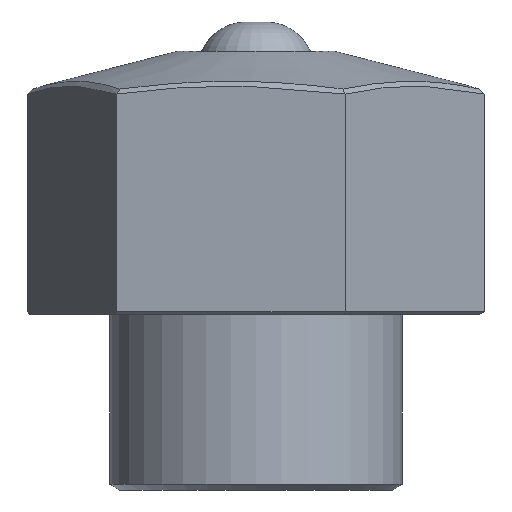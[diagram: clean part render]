
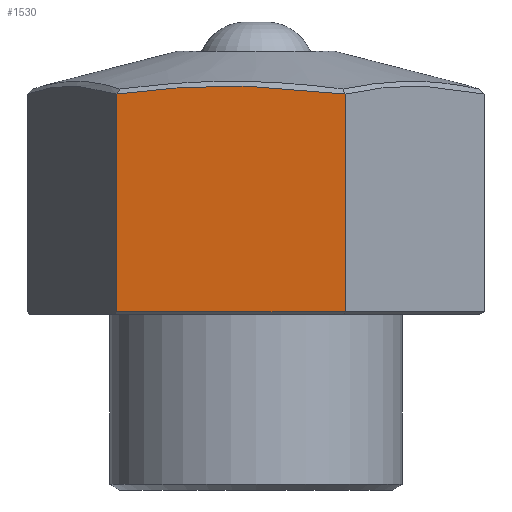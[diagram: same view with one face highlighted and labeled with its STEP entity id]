
A CAD part, front view. The second image highlights one B-rep face of the part: STEP entity #1530.
In plain terms, the highlighted planar face has unit normal (-0.126, -0.992, 0).
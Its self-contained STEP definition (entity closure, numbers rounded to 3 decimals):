
#1 = FACE_OUTER_BOUND ( 'NONE', #1048, .T. ) ;
#6 = VERTEX_POINT ( 'NONE', #746 ) ;
#29 = ORIENTED_EDGE ( 'NONE', *, *, #1082, .F. ) ;
#51 = CARTESIAN_POINT ( 'NONE',  ( -5.989, -19.904, 41.369 ) ) ;
#64 = CARTESIAN_POINT ( 'NONE',  ( -5.382, -19.981, 41.392 ) ) ;
#79 = CARTESIAN_POINT ( 'NONE',  ( -10.52, -19.329, 41.047 ) ) ;
#93 = CARTESIAN_POINT ( 'NONE',  ( 3.555, -21.116, 41.203 ) ) ;
#94 = CARTESIAN_POINT ( 'NONE',  ( -14.323, -18.846, 45. ) ) ;
#152 = DIRECTION ( 'NONE',  ( 0., 0., -1. ) ) ;
#160 = PLANE ( 'NONE',  #1641 ) ;
#188 = ORIENTED_EDGE ( 'NONE', *, *, #259, .T. ) ;
#217 = VECTOR ( 'NONE', #1617, 1000. ) ;
#228 = CARTESIAN_POINT ( 'NONE',  ( -2.792, -20.31, 41.444 ) ) ;
#239 = CARTESIAN_POINT ( 'NONE',  ( 6.321, -21.467, 40.948 ) ) ;
#241 = LINE ( 'NONE', #94, #217 ) ;
#259 = EDGE_CURVE ( 'NONE', #6, #2229, #942, .T. ) ;
#281 = CARTESIAN_POINT ( 'NONE',  ( 8.662, -21.764, 40.674 ) ) ;
#294 = CARTESIAN_POINT ( 'NONE',  ( -11.268, -19.234, 40.971 ) ) ;
#311 = CARTESIAN_POINT ( 'NONE',  ( -11.364, -19.222, 40.961 ) ) ;
#413 = CARTESIAN_POINT ( 'NONE',  ( 6.467, -21.486, 40.933 ) ) ;
#427 = CARTESIAN_POINT ( 'NONE',  ( -8.018, -19.647, 41.254 ) ) ;
#440 = CARTESIAN_POINT ( 'NONE',  ( -5.258, -19.997, 41.397 ) ) ;
#452 = LINE ( 'NONE', #1683, #1262 ) ;
#453 = CARTESIAN_POINT ( 'NONE',  ( 3.378, -21.093, 41.216 ) ) ;
#465 = CARTESIAN_POINT ( 'NONE',  ( -3.532, -20.216, 41.438 ) ) ;
#480 = CARTESIAN_POINT ( 'NONE',  ( 9.16, -21.827, 45. ) ) ;
#491 = EDGE_CURVE ( 'NONE', #853, #2074, #452, .T. ) ;
#585 = CARTESIAN_POINT ( 'NONE',  ( 1.258, -20.824, 41.348 ) ) ;
#600 = CARTESIAN_POINT ( 'NONE',  ( 2.111, -20.932, 41.304 ) ) ;
#616 = CARTESIAN_POINT ( 'NONE',  ( 3.466, -21.104, 41.209 ) ) ;
#630 = CARTESIAN_POINT ( 'NONE',  ( 6.379, -21.474, 40.942 ) ) ;
#649 = CARTESIAN_POINT ( 'NONE',  ( -14.323, -18.846, 45. ) ) ;
#660 = CARTESIAN_POINT ( 'NONE',  ( -14.323, -18.846, 40.609 ) ) ;
#680 = DIRECTION ( 'NONE',  ( 0.992, -0.126, 0. ) ) ;
#714 = ORIENTED_EDGE ( 'NONE', *, *, #899, .T. ) ;
#746 = CARTESIAN_POINT ( 'NONE',  ( 9.16, -21.827, 40.609 ) ) ;
#753 = CARTESIAN_POINT ( 'NONE',  ( -6.72, -19.811, 41.335 ) ) ;
#767 = CARTESIAN_POINT ( 'NONE',  ( -8.33, -19.607, 41.231 ) ) ;
#776 = CARTESIAN_POINT ( 'NONE',  ( 9.16, -21.827, 18.289 ) ) ;
#781 = CARTESIAN_POINT ( 'NONE',  ( 6.674, -21.512, 40.91 ) ) ;
#794 = CARTESIAN_POINT ( 'NONE',  ( -4.641, -20.075, 41.416 ) ) ;
#807 = CARTESIAN_POINT ( 'NONE',  ( -1.558, -20.467, 41.438 ) ) ;
#853 = VERTEX_POINT ( 'NONE', #1282 ) ;
#899 = EDGE_CURVE ( 'NONE', #2229, #853, #241, .T. ) ;
#919 = CARTESIAN_POINT ( 'NONE',  ( -5.073, -20.021, 41.403 ) ) ;
#932 = CARTESIAN_POINT ( 'NONE',  ( 3.406, -21.097, 41.214 ) ) ;
#942 = B_SPLINE_CURVE_WITH_KNOTS ( 'NONE', 3,
 ( #1460, #281, #1140, #1655, #781, #413, #630, #239, #2005, #1266, #1798, #1472, #1616, #93, #616, #932, #453, #1823, #600, #585, #972, #1644, #960, #1318, #2177, #1293, #1977, #1095, #807, #1484, #228, #1965, #465, #1151, #2118, #794, #919, #440, #64, #1603, #51, #753, #1431, #427, #1949, #767, #1445, #1110, #945, #1629, #79, #1125, #1811, #294, #1861, #311, #1714, #1527, #2047 ),
 .UNSPECIFIED., .F., .F.,
 ( 4, 1, 1, 1, 1, 2, 2, 1, 1, 1, 1, 2, 2, 1, 1, 1, 2, 2, 2, 2, 2, 2, 2, 1, 1, 2, 2, 1, 1, 1, 1, 2, 2, 1, 1, 1, 1, 2, 2, 4 ),
 ( 0., 0.063, 0.094, 0.109, 0.117, 0.121, 0.125, 0.188, 0.219, 0.234, 0.242, 0.246, 0.25, 0.312, 0.344, 0.359, 0.367, 0.375, 0.406, 0.437, 0.5, 0.531, 0.562, 0.594, 0.609, 0.617, 0.625, 0.687, 0.719, 0.734, 0.742, 0.746, 0.75, 0.812, 0.844, 0.859, 0.867, 0.871, 0.875, 1. ),
 .UNSPECIFIED. ) ;
#945 = CARTESIAN_POINT ( 'NONE',  ( -8.932, -19.531, 41.187 ) ) ;
#960 = CARTESIAN_POINT ( 'NONE',  ( 0.532, -20.732, 41.38 ) ) ;
#972 = CARTESIAN_POINT ( 'NONE',  ( 0.834, -20.77, 41.368 ) ) ;
#1048 = EDGE_LOOP ( 'NONE', ( #29, #188, #714, #1056 ) ) ;
#1056 = ORIENTED_EDGE ( 'NONE', *, *, #491, .T. ) ;
#1082 = EDGE_CURVE ( 'NONE', #6, #2074, #1163, .T. ) ;
#1095 = CARTESIAN_POINT ( 'NONE',  ( -0.817, -20.561, 41.424 ) ) ;
#1110 = CARTESIAN_POINT ( 'NONE',  ( -8.425, -19.595, 41.225 ) ) ;
#1125 = CARTESIAN_POINT ( 'NONE',  ( -10.955, -19.274, 41.003 ) ) ;
#1140 = CARTESIAN_POINT ( 'NONE',  ( 7.927, -21.671, 40.767 ) ) ;
#1151 = CARTESIAN_POINT ( 'NONE',  ( -3.782, -20.184, 41.434 ) ) ;
#1163 = LINE ( 'NONE', #480, #1765 ) ;
#1262 = VECTOR ( 'NONE', #680, 1000. ) ;
#1266 = CARTESIAN_POINT ( 'NONE',  ( 5.765, -21.396, 41.007 ) ) ;
#1282 = CARTESIAN_POINT ( 'NONE',  ( -14.323, -18.846, 18.289 ) ) ;
#1293 = CARTESIAN_POINT ( 'NONE',  ( -0.081, -20.654, 41.403 ) ) ;
#1318 = CARTESIAN_POINT ( 'NONE',  ( 0.474, -20.725, 41.383 ) ) ;
#1327 = DIRECTION ( 'NONE',  ( 0.126, 0.992, 0. ) ) ;
#1431 = CARTESIAN_POINT ( 'NONE',  ( -7.584, -19.702, 41.283 ) ) ;
#1445 = CARTESIAN_POINT ( 'NONE',  ( -8.392, -19.599, 41.227 ) ) ;
#1460 = CARTESIAN_POINT ( 'NONE',  ( 9.16, -21.827, 40.609 ) ) ;
#1472 = CARTESIAN_POINT ( 'NONE',  ( 4.182, -21.195, 41.153 ) ) ;
#1484 = CARTESIAN_POINT ( 'NONE',  ( -2.052, -20.404, 41.443 ) ) ;
#1527 = CARTESIAN_POINT ( 'NONE',  ( -13.317, -18.974, 40.742 ) ) ;
#1530 = ADVANCED_FACE ( 'NONE', ( #1 ), #160, .F. ) ;
#1603 = CARTESIAN_POINT ( 'NONE',  ( -5.445, -19.973, 41.39 ) ) ;
#1616 = CARTESIAN_POINT ( 'NONE',  ( 3.763, -21.142, 41.186 ) ) ;
#1617 = DIRECTION ( 'NONE',  ( 0., 0., -1. ) ) ;
#1629 = CARTESIAN_POINT ( 'NONE',  ( -9.658, -19.439, 41.128 ) ) ;
#1641 = AXIS2_PLACEMENT_3D ( 'NONE', #649, #1327, #1882 ) ;
#1644 = CARTESIAN_POINT ( 'NONE',  ( 0.653, -20.747, 41.375 ) ) ;
#1655 = CARTESIAN_POINT ( 'NONE',  ( 7.088, -21.564, 40.864 ) ) ;
#1683 = CARTESIAN_POINT ( 'NONE',  ( -14.323, -18.846, 18.289 ) ) ;
#1714 = CARTESIAN_POINT ( 'NONE',  ( -12.34, -19.098, 40.858 ) ) ;
#1765 = VECTOR ( 'NONE', #152, 1000. ) ;
#1798 = CARTESIAN_POINT ( 'NONE',  ( 5.027, -21.303, 41.08 ) ) ;
#1811 = CARTESIAN_POINT ( 'NONE',  ( -11.174, -19.246, 40.981 ) ) ;
#1823 = CARTESIAN_POINT ( 'NONE',  ( 2.85, -21.026, 41.255 ) ) ;
#1861 = CARTESIAN_POINT ( 'NONE',  ( -11.331, -19.226, 40.965 ) ) ;
#1882 = DIRECTION ( 'NONE',  ( -0.992, 0.126, 0. ) ) ;
#1949 = CARTESIAN_POINT ( 'NONE',  ( -8.236, -19.619, 41.238 ) ) ;
#1965 = CARTESIAN_POINT ( 'NONE',  ( -3.038, -20.279, 41.443 ) ) ;
#1977 = CARTESIAN_POINT ( 'NONE',  ( -0.573, -20.592, 41.418 ) ) ;
#2005 = CARTESIAN_POINT ( 'NONE',  ( 6.293, -21.463, 40.951 ) ) ;
#2047 = CARTESIAN_POINT ( 'NONE',  ( -14.323, -18.846, 40.609 ) ) ;
#2074 = VERTEX_POINT ( 'NONE', #776 ) ;
#2118 = CARTESIAN_POINT ( 'NONE',  ( -4.272, -20.122, 41.425 ) ) ;
#2177 = CARTESIAN_POINT ( 'NONE',  ( 0.165, -20.685, 41.395 ) ) ;
#2229 = VERTEX_POINT ( 'NONE', #660 ) ;
